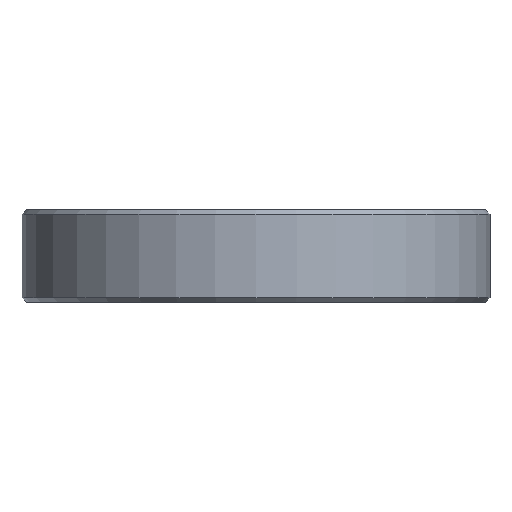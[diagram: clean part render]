
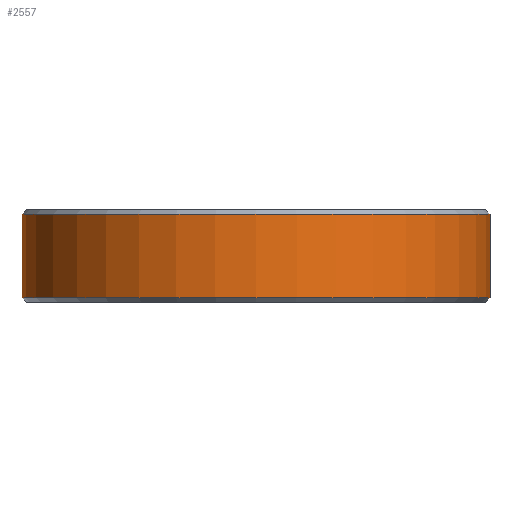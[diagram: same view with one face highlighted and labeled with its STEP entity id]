
A CAD part, front view. The second image highlights one B-rep face of the part: STEP entity #2557.
In plain terms, the highlighted cylindrical face has radius 25.222 mm (diameter 50.444 mm), a partial arc.
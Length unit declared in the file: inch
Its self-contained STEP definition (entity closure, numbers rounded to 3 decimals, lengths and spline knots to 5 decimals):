
#122 = DIRECTION ( 'NONE',  ( 0., 0., -1. ) ) ;
#207 = CARTESIAN_POINT ( 'NONE',  ( -0.993, 0., 0.02 ) ) ;
#225 = VECTOR ( 'NONE', #122, 39.37008 ) ;
#242 = DIRECTION ( 'NONE',  ( 0., 0., -1. ) ) ;
#261 = VECTOR ( 'NONE', #2198, 39.37008 ) ;
#272 = CARTESIAN_POINT ( 'NONE',  ( 0.993, 0., 0.02 ) ) ;
#383 = ORIENTED_EDGE ( 'NONE', *, *, #1183, .F. ) ;
#389 = CIRCLE ( 'NONE', #808, 0.993 ) ;
#460 = AXIS2_PLACEMENT_3D ( 'NONE', #1111, #1120, #1546 ) ;
#527 = FACE_OUTER_BOUND ( 'NONE', #1060, .T. ) ;
#569 = ORIENTED_EDGE ( 'NONE', *, *, #2582, .T. ) ;
#808 = AXIS2_PLACEMENT_3D ( 'NONE', #1527, #242, #1330 ) ;
#813 = DIRECTION ( 'NONE',  ( 1., 0., 0. ) ) ;
#964 = AXIS2_PLACEMENT_3D ( 'NONE', #2281, #1615, #813 ) ;
#967 = CYLINDRICAL_SURFACE ( 'NONE', #460, 0.993 ) ;
#1060 = EDGE_LOOP ( 'NONE', ( #383, #569, #1159, #2021 ) ) ;
#1111 = CARTESIAN_POINT ( 'NONE',  ( 0., 0., 0.3937 ) ) ;
#1120 = DIRECTION ( 'NONE',  ( 0., 0., -1. ) ) ;
#1159 = ORIENTED_EDGE ( 'NONE', *, *, #2131, .T. ) ;
#1183 = EDGE_CURVE ( 'NONE', #2355, #2116, #1845, .T. ) ;
#1201 = CARTESIAN_POINT ( 'NONE',  ( 0.993, 0., 0.3737 ) ) ;
#1330 = DIRECTION ( 'NONE',  ( 1., 0., 0. ) ) ;
#1456 = VERTEX_POINT ( 'NONE', #207 ) ;
#1527 = CARTESIAN_POINT ( 'NONE',  ( 0., 0., 0.3737 ) ) ;
#1546 = DIRECTION ( 'NONE',  ( -1., 0., 0. ) ) ;
#1615 = DIRECTION ( 'NONE',  ( 0., 0., 1. ) ) ;
#1758 = EDGE_CURVE ( 'NONE', #1456, #2116, #2172, .T. ) ;
#1795 = CARTESIAN_POINT ( 'NONE',  ( -0.993, 0., 0.3737 ) ) ;
#1845 = LINE ( 'NONE', #2501, #225 ) ;
#1989 = CARTESIAN_POINT ( 'NONE',  ( -0.993, 0., 0.3937 ) ) ;
#2021 = ORIENTED_EDGE ( 'NONE', *, *, #1758, .T. ) ;
#2116 = VERTEX_POINT ( 'NONE', #272 ) ;
#2131 = EDGE_CURVE ( 'NONE', #2668, #1456, #2140, .T. ) ;
#2140 = LINE ( 'NONE', #1989, #261 ) ;
#2172 = CIRCLE ( 'NONE', #964, 0.993 ) ;
#2198 = DIRECTION ( 'NONE',  ( 0., 0., -1. ) ) ;
#2281 = CARTESIAN_POINT ( 'NONE',  ( 0., 0., 0.02 ) ) ;
#2355 = VERTEX_POINT ( 'NONE', #1201 ) ;
#2501 = CARTESIAN_POINT ( 'NONE',  ( 0.993, 0., 0.3937 ) ) ;
#2557 = ADVANCED_FACE ( 'NONE', ( #527 ), #967, .T. ) ;
#2582 = EDGE_CURVE ( 'NONE', #2355, #2668, #389, .T. ) ;
#2668 = VERTEX_POINT ( 'NONE', #1795 ) ;
